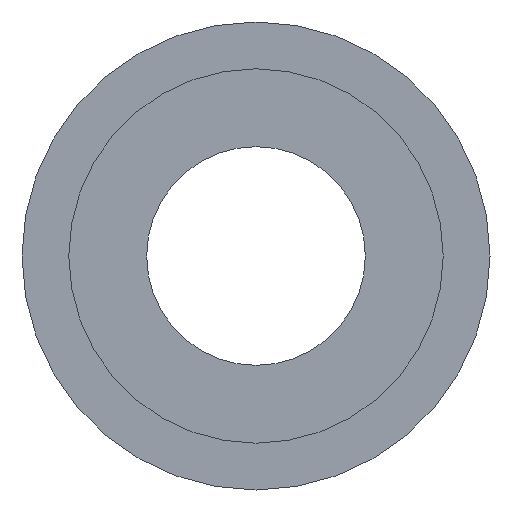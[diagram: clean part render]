
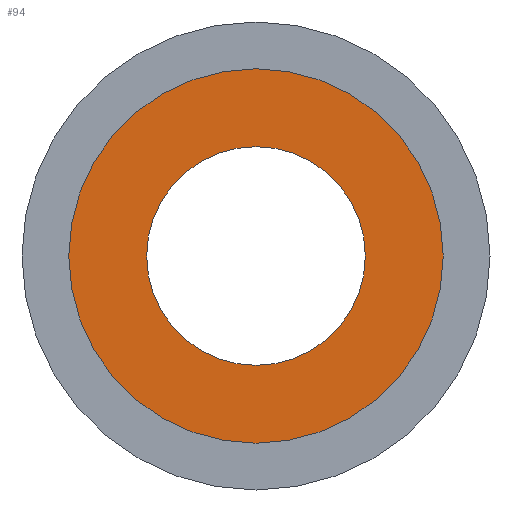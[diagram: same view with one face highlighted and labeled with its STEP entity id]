
A CAD part, front view. The second image highlights one B-rep face of the part: STEP entity #94.
In plain terms, the highlighted planar face has unit normal (0, -1, 0).
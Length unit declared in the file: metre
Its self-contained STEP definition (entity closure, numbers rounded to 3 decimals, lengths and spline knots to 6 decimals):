
#12=PLANE('',#119);
#20=ORIENTED_EDGE('',*,*,#34,.T.);
#21=ORIENTED_EDGE('',*,*,#32,.F.);
#32=EDGE_CURVE('',#40,#40,#48,.F.);
#34=EDGE_CURVE('',#42,#42,#50,.F.);
#40=VERTEX_POINT('',#166);
#42=VERTEX_POINT('',#171);
#48=CIRCLE('',#114,0.003175);
#50=CIRCLE('',#117,0.001854);
#60=EDGE_LOOP('',(#20));
#61=EDGE_LOOP('',(#21));
#76=FACE_BOUND('',#60,.T.);
#77=FACE_BOUND('',#61,.T.);
#94=ADVANCED_FACE('',(#76,#77),#12,.T.);
#114=AXIS2_PLACEMENT_3D('',#165,#133,#134);
#117=AXIS2_PLACEMENT_3D('',#170,#139,#140);
#119=AXIS2_PLACEMENT_3D('',#174,#143,#144);
#133=DIRECTION('',(0.,-1.,0.));
#134=DIRECTION('',(0.,0.,-1.));
#139=DIRECTION('',(0.,-1.,0.));
#140=DIRECTION('',(0.,0.,-1.));
#143=DIRECTION('',(0.,-1.,0.));
#144=DIRECTION('',(0.,0.,-1.));
#165=CARTESIAN_POINT('',(0.,-0.023368,-0.029776));
#166=CARTESIAN_POINT('',(0.,-0.023368,-0.032951));
#170=CARTESIAN_POINT('',(0.,-0.023368,-0.029776));
#171=CARTESIAN_POINT('',(0.,-0.023368,-0.03163));
#174=CARTESIAN_POINT('',(-0.0127,-0.023368,-0.0127));
